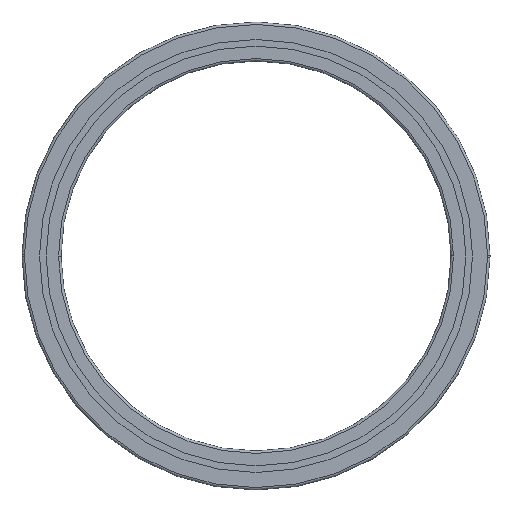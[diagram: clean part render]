
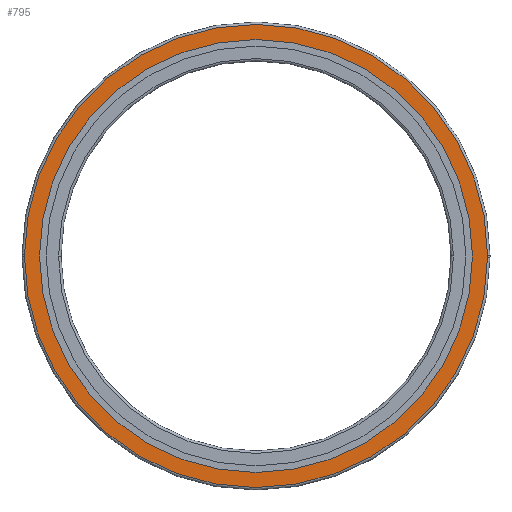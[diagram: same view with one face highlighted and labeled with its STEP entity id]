
A CAD part, front view. The second image highlights one B-rep face of the part: STEP entity #795.
In plain terms, the highlighted planar face has unit normal (0, -1, 0).
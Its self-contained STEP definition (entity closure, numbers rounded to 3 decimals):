
#329=EDGE_CURVE('',#413,#535,#868,.T.);
#355=EDGE_CURVE('',#403,#605,#896,.T.);
#357=EDGE_CURVE('',#667,#413,#898,.T.);
#381=VERTEX_POINT('',#924);
#403=VERTEX_POINT('',#948);
#413=VERTEX_POINT('',#959);
#461=EDGE_CURVE('',#535,#381,#1011,.T.);
#535=VERTEX_POINT('',#1097);
#557=EDGE_CURVE('',#381,#667,#1123,.T.);
#605=VERTEX_POINT('',#1174);
#667=VERTEX_POINT('',#1245);
#749=EDGE_CURVE('',#605,#403,#1340,.T.);
#795=ADVANCED_FACE('',(#1392,#1393),#1394,.F.);
#868=CIRCLE('',#1474,237.5);
#896=CIRCLE('',#1508,222.0);
#898=CIRCLE('',#1511,237.5);
#924=CARTESIAN_POINT('',(-237.5,0.0,0.));
#948=CARTESIAN_POINT('',(222.0,0.0,0.));
#959=CARTESIAN_POINT('',(237.5,0.0,0.0));
#1011=CIRCLE('',#1643,237.5);
#1097=CARTESIAN_POINT('',(-237.495,0.0,1.468));
#1123=CIRCLE('',#1772,237.5);
#1174=CARTESIAN_POINT('',(-222.0,0.0,0.0));
#1245=CARTESIAN_POINT('',(237.495,0.0,-1.468));
#1340=CIRCLE('',#2054,222.0);
#1392=FACE_OUTER_BOUND('',#2120,.T.);
#1393=FACE_BOUND('',#2121,.T.);
#1394=PLANE('',#2122);
#1474=AXIS2_PLACEMENT_3D('',#2182,#2183,#2184);
#1508=AXIS2_PLACEMENT_3D('',#2216,#2217,#2218);
#1511=AXIS2_PLACEMENT_3D('',#2219,#2220,#2221);
#1643=AXIS2_PLACEMENT_3D('',#2342,#2343,#2344);
#1772=AXIS2_PLACEMENT_3D('',#2506,#2507,#2508);
#2054=AXIS2_PLACEMENT_3D('',#2822,#2823,#2824);
#2120=EDGE_LOOP('',(#2892,#2893,#2894,#2895));
#2121=EDGE_LOOP('',(#2896,#2897));
#2122=AXIS2_PLACEMENT_3D('',#2898,#2899,#2900);
#2182=CARTESIAN_POINT('',(0.0,0.0,0.0));
#2183=DIRECTION('',(0.0,-1.0,0.0));
#2184=DIRECTION('',(1.0,0.0,0.0));
#2216=CARTESIAN_POINT('',(0.0,0.0,0.0));
#2217=DIRECTION('',(0.0,-1.0,0.0));
#2218=DIRECTION('',(1.0,0.0,0.0));
#2219=CARTESIAN_POINT('',(0.0,0.0,0.0));
#2220=DIRECTION('',(0.0,-1.0,0.0));
#2221=DIRECTION('',(-1.0,0.0,0.0));
#2342=CARTESIAN_POINT('',(0.0,0.0,0.0));
#2343=DIRECTION('',(0.0,-1.0,0.0));
#2344=DIRECTION('',(1.0,0.0,0.0));
#2506=CARTESIAN_POINT('',(0.0,0.0,0.0));
#2507=DIRECTION('',(0.0,-1.0,0.0));
#2508=DIRECTION('',(-1.0,0.0,0.0));
#2822=CARTESIAN_POINT('',(0.0,0.0,0.0));
#2823=DIRECTION('',(0.0,-1.0,0.0));
#2824=DIRECTION('',(-1.0,0.0,0.0));
#2892=ORIENTED_EDGE('',*,*,#329,.T.);
#2893=ORIENTED_EDGE('',*,*,#461,.T.);
#2894=ORIENTED_EDGE('',*,*,#557,.T.);
#2895=ORIENTED_EDGE('',*,*,#357,.T.);
#2896=ORIENTED_EDGE('',*,*,#749,.F.);
#2897=ORIENTED_EDGE('',*,*,#355,.F.);
#2898=CARTESIAN_POINT('',(0.0,0.0,0.0));
#2899=DIRECTION('',(0.0,1.0,0.0));
#2900=DIRECTION('',(1.0,0.0,-0.0));
